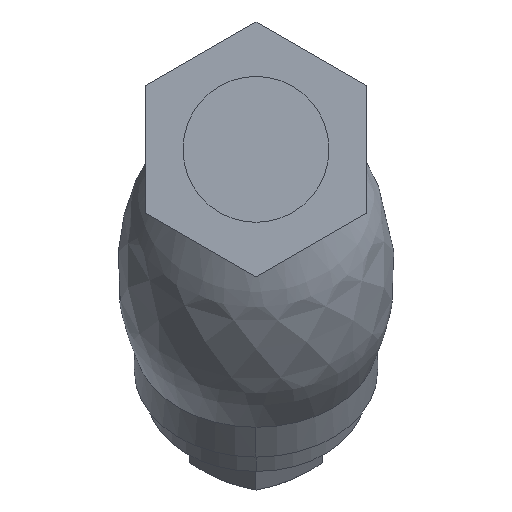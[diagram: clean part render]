
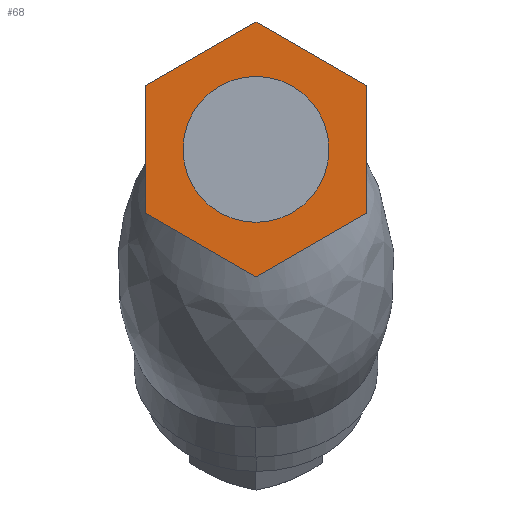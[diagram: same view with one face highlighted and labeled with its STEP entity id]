
A CAD part, left-side view. The second image highlights one B-rep face of the part: STEP entity #68.
In plain terms, the highlighted planar face has unit normal (-1, 0, 0).
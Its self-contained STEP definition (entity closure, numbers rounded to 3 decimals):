
#68=ADVANCED_FACE('',(#393,#394),#392,.T.);
#392=PLANE('',#1027);
#393=FACE_OUTER_BOUND('',#1028,.T.);
#394=FACE_BOUND('',#1029,.T.);
#1024=CARTESIAN_POINT('',(-48.,-40.8,-47.112));
#1025=DIRECTION('',(-1.,0.,0.));
#1026=DIRECTION('',(0.,0.,1.));
#1027=AXIS2_PLACEMENT_3D('',#1024,#1025,#1026);
#1028=EDGE_LOOP('',(#1401,#1402,#1403,#1404,#1405,#1406));
#1029=EDGE_LOOP('',(#1407,#1408));
#1401=ORIENTED_EDGE('',*,*,#1657,.F.);
#1402=ORIENTED_EDGE('',*,*,#1636,.F.);
#1403=ORIENTED_EDGE('',*,*,#1641,.F.);
#1404=ORIENTED_EDGE('',*,*,#1645,.F.);
#1405=ORIENTED_EDGE('',*,*,#1649,.F.);
#1406=ORIENTED_EDGE('',*,*,#1653,.F.);
#1407=ORIENTED_EDGE('',*,*,#1678,.T.);
#1408=ORIENTED_EDGE('',*,*,#1679,.T.);
#1636=EDGE_CURVE('',#2134,#2135,#2136,.T.);
#1641=EDGE_CURVE('',#2169,#2134,#2170,.T.);
#1645=EDGE_CURVE('',#2196,#2169,#2197,.T.);
#1649=EDGE_CURVE('',#2223,#2196,#2224,.T.);
#1653=EDGE_CURVE('',#2250,#2223,#2251,.T.);
#1657=EDGE_CURVE('',#2135,#2250,#2277,.T.);
#1678=EDGE_CURVE('',#2415,#2416,#2417,.T.);
#1679=EDGE_CURVE('',#2416,#2415,#2423,.T.);
#2134=VERTEX_POINT('',#3273);
#2135=VERTEX_POINT('',#3274);
#2136=LINE('',#3275,#3276);
#2169=VERTEX_POINT('',#3293);
#2170=LINE('',#3294,#3295);
#2196=VERTEX_POINT('',#3308);
#2197=LINE('',#3309,#3310);
#2223=VERTEX_POINT('',#3323);
#2224=LINE('',#3324,#3325);
#2250=VERTEX_POINT('',#3338);
#2251=LINE('',#3339,#3340);
#2277=LINE('',#3353,#3354);
#2415=VERTEX_POINT('',#3442);
#2416=VERTEX_POINT('',#3443);
#2417=CIRCLE('',#3447,22.5);
#2423=CIRCLE('',#3451,22.5);
#3273=CARTESIAN_POINT('',(-48.,0.,39.26));
#3274=CARTESIAN_POINT('',(-48.,-34.,19.63));
#3275=CARTESIAN_POINT('',(-48.,0.,39.26));
#3276=VECTOR('',#3277,39.26);
#3277=DIRECTION('',(0.,-0.866,-0.5));
#3293=CARTESIAN_POINT('',(-48.,34.,19.63));
#3294=CARTESIAN_POINT('',(-48.,34.,19.63));
#3295=VECTOR('',#3296,39.26);
#3296=DIRECTION('',(0.,-0.866,0.5));
#3308=CARTESIAN_POINT('',(-48.,34.,-19.63));
#3309=CARTESIAN_POINT('',(-48.,34.,-19.63));
#3310=VECTOR('',#3311,39.26);
#3311=DIRECTION('',(0.,0.,1.));
#3323=CARTESIAN_POINT('',(-48.,0.,-39.26));
#3324=CARTESIAN_POINT('',(-48.,0.,-39.26));
#3325=VECTOR('',#3326,39.26);
#3326=DIRECTION('',(0.,0.866,0.5));
#3338=CARTESIAN_POINT('',(-48.,-34.,-19.63));
#3339=CARTESIAN_POINT('',(-48.,-34.,-19.63));
#3340=VECTOR('',#3341,39.26);
#3341=DIRECTION('',(0.,0.866,-0.5));
#3353=CARTESIAN_POINT('',(-48.,-34.,19.63));
#3354=VECTOR('',#3355,39.26);
#3355=DIRECTION('',(0.,0.,-1.));
#3442=CARTESIAN_POINT('',(-48.,0.,22.5));
#3443=CARTESIAN_POINT('',(-48.,0.,-22.5));
#3444=CARTESIAN_POINT('',(-48.,0.,0.));
#3445=DIRECTION('',(1.,0.,0.));
#3446=DIRECTION('',(0.,0.,1.));
#3447=AXIS2_PLACEMENT_3D('',#3444,#3445,#3446);
#3448=CARTESIAN_POINT('',(-48.,0.,0.));
#3449=DIRECTION('',(1.,0.,0.));
#3450=DIRECTION('',(0.,0.,1.));
#3451=AXIS2_PLACEMENT_3D('',#3448,#3449,#3450);
